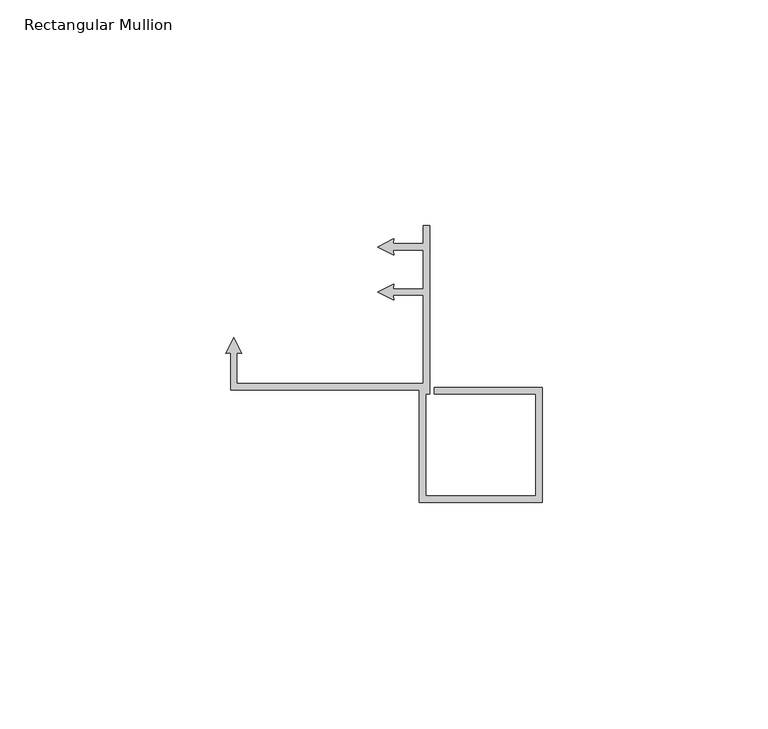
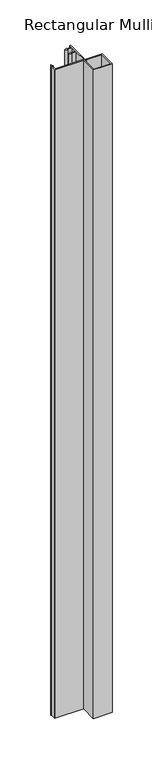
"""IFC4 building model written with IfcOpenShell, lengths in millimetres: member geometry, Rectangular Mullion : Renson_Linarte_LA-B25-03."""

from ifc_helpers import new_model, si_unit, origin, place, context, project, spatial, faceted_brep, source, transform, mapped, element, save


def rectangular_mullion_e7adb6c3(model_context):
    return source(origin(), model_context, "Body", "Brep", [
        faceted_brep([(-27.3374092, -36.5352346, 0.0), (-27.3374092, -61.5, 0.0), (0.0, -61.5, 0.0), (0.0, -35.9228415, 0.0), (-23.9874091, -35.9228415, 0.0), (-23.9874091, -37.4228415, 0.0), (-1.5, -37.4228415, 0.0), (-1.5, -60.0, 0.0), (-25.8374092, -60.0, 0.0), (-25.8374092, -37.4228415, 0.0), (-24.9874091, -37.4228415, 0.0), (-24.9874091, 0.0, 0.0), (-26.4874092, 0.0, 0.0), (-26.4874092, -4.101302, 0.0), (-33.0845952, -4.101302, 0.0), (-32.9869803, -2.985559, 0.0), (-36.5505677, -4.8012956, 0.0), (-32.9869803, -6.6170322, 0.0), (-33.084594, -5.5013022, 0.0), (-26.4874093, -5.5013022, 0.0), (-26.4874093, -14.1013012, 0.0), (-33.0845951, -14.1013012, 0.0), (-32.9869802, -12.9855581, 0.0), (-36.5505677, -14.8012947, 0.0), (-32.9869802, -16.6170313, 0.0), (-33.0845939, -15.5013013, 0.0), (-26.4874092, -15.5013013, 0.0), (-26.4874092, -35.0352346, 0.0), (-67.7723204, -35.0352346, 0.0), (-67.7723204, -28.3538205, 0.0), (-66.6565836, -28.4514348, 0.0), (-68.4723202, -24.8878474, 0.0), (-70.2880568, -28.4514348, 0.0), (-69.1723206, -28.3538205, 0.0), (-69.1723206, -35.0352346, 0.0), (-69.1723191, -36.5352346, 0.0), (-27.3374092, -36.5352346, -1000.0), (-69.1723191, -36.5352346, -1000.0), (-69.1723191, -35.0352346, -1000.0), (-69.1723206, -28.3538205, -1000.0), (-70.2880568, -28.4514348, -1000.0), (-68.4723202, -24.8878474, -1000.0), (-66.6565836, -28.4514348, -1000.0), (-67.7723204, -28.3538205, -1000.0), (-67.7723204, -35.0352346, -1000.0), (-26.4874092, -35.0352346, -1000.0), (-26.4874092, -15.5013013, -1000.0), (-33.0845939, -15.5013013, -1000.0), (-32.9869802, -16.6170313, -1000.0), (-36.5505677, -14.8012947, -1000.0), (-32.9869802, -12.9855581, -1000.0), (-33.0845951, -14.1013012, -1000.0), (-26.4874093, -14.1013012, -1000.0), (-26.4874093, -5.5013022, -1000.0), (-33.084594, -5.5013022, -1000.0), (-32.9869803, -6.6170322, -1000.0), (-36.5505677, -4.8012956, -1000.0), (-32.9869803, -2.985559, -1000.0), (-33.0845952, -4.101302, -1000.0), (-26.4874092, -4.101302, -1000.0), (-26.4874092, 0.0, -1000.0), (-24.9874091, 0.0, -1000.0), (-24.9874091, -37.4228415, -1000.0), (-25.8374092, -37.4228415, -1000.0), (-25.8374092, -60.0, -1000.0), (-1.5, -60.0, -1000.0), (-1.5, -37.4228415, -1000.0), (-23.9874091, -37.4228415, -1000.0), (-23.9874091, -35.9228415, -1000.0), (0.0, -35.9228415, -1000.0), (0.0, -61.5, -1000.0), (-27.3374092, -61.5, -1000.0)], [[[0, 1, 2, 3, 4, 5, 6, 7, 8, 9, 10, 11, 12, 13, 14, 15, 16, 17, 18, 19, 20, 21, 22, 23, 24, 25, 26, 27, 28, 29, 30, 31, 32, 33, 34, 35]], [[36, 37, 38, 39, 40, 41, 42, 43, 44, 45, 46, 47, 48, 49, 50, 51, 52, 53, 54, 55, 56, 57, 58, 59, 60, 61, 62, 63, 64, 65, 66, 67, 68, 69, 70, 71]], [[1, 0, 36, 71]], [[2, 1, 71, 70]], [[3, 2, 70, 69]], [[4, 3, 69, 68]], [[5, 4, 68, 67]], [[6, 5, 67, 66]], [[7, 6, 66, 65]], [[8, 7, 65, 64]], [[9, 8, 64, 63]], [[10, 9, 63, 62]], [[11, 10, 62, 61]], [[12, 11, 61, 60]], [[13, 12, 60, 59]], [[14, 13, 59, 58]], [[15, 14, 58, 57]], [[16, 15, 57, 56]], [[17, 16, 56, 55]], [[18, 17, 55, 54]], [[19, 18, 54, 53]], [[20, 19, 53, 52]], [[21, 20, 52, 51]], [[22, 21, 51, 50]], [[23, 22, 50, 49]], [[24, 23, 49, 48]], [[25, 24, 48, 47]], [[26, 25, 47, 46]], [[27, 26, 46, 45]], [[28, 27, 45, 44]], [[29, 28, 44, 43]], [[30, 29, 43, 42]], [[31, 30, 42, 41]], [[32, 31, 41, 40]], [[33, 32, 40, 39]], [[34, 33, 39, 38]], [[35, 34, 38, 37]], [[0, 35, 37, 36]]]),
    ])


if __name__ == "__main__":
    model = new_model("IFC4")
    model_context = context("Model", 3, world=origin())
    ifc_project = project(units=[si_unit("LENGTHUNIT", "METRE", prefix="MILLI")], contexts=[model_context])
    site = spatial("IfcSite", under=ifc_project)
    building = spatial("IfcBuilding", under=site)
    placement = place(None, origin())
    rectangular_mullion_shape = rectangular_mullion_e7adb6c3(model_context)
    element("IfcMember", 1, ObjectType="Rectangular Mullion : Renson_Linarte_LA-B25-03", at=placement, inside=building, context=model_context, shape_type="MappedRepresentation", body=[
        mapped(rectangular_mullion_shape, transform((0.0, 0.0, 0.0), x_axis=(1.0, 0.0, 0.0), y_axis=(0.0, 1.0, 0.0), z_axis=(0.0, 0.0, 1.0))),
    ])
    save(model, "model.ifc")
